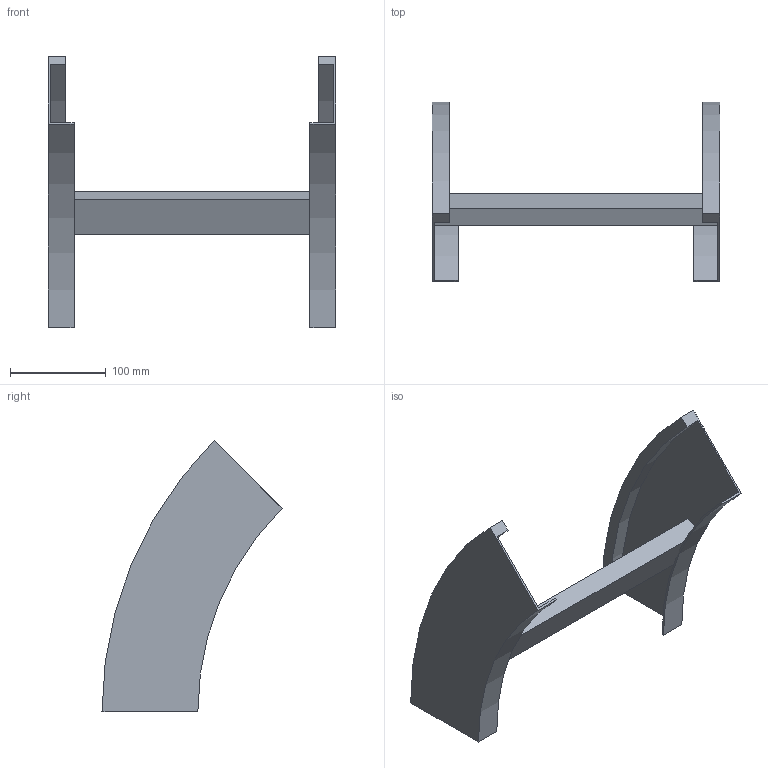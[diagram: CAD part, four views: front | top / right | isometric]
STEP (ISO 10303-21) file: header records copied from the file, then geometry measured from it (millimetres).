
FILE_DESCRIPTION (( 'STEP AP214' ), '1' );
FILE_NAME ('B2_34B3D300.step', '2025-02-21T14:52:05', ( '' ), ( '' ), 'SwSTEP 2.0', 'SolidWorks 2023', '' );
FILE_SCHEMA (( 'AUTOMOTIVE_DESIGN' ));
Length unit declared in the file: millimetre
Products named in the file (3): B2_34B3D300; B2_LONGH.DISCESA_45°_H100_R300; TRAVERSINO_300
Assembly tree (3 placements, depth 2):
  B2_34B3D300
    B2_LONGH.DISCESA_45°_H100_R300  x2
    TRAVERSINO_300
Bounding box: 300 x 187.87 x 282.84 mm (x, y, z)
Volume: 492183.8 mm3; surface area: 194803.9 mm2
Topology: 3 solids, 3 shells, 26 faces, 60 edges, 40 vertices
Faces by surface type: plane 18, cylinder 8
Entity records: 544 total; most frequent: DIRECTION 88, CARTESIAN_POINT 82, ORIENTED_EDGE 72, EDGE_CURVE 36, AXIS2_PLACEMENT_3D 30, VECTOR 28, LINE 28, VERTEX_POINT 24
